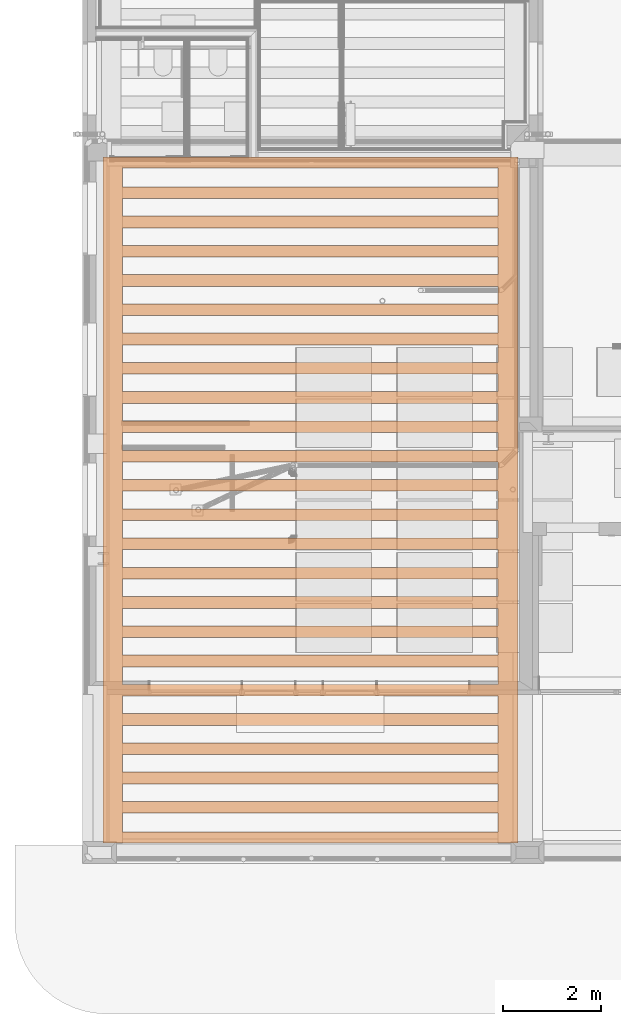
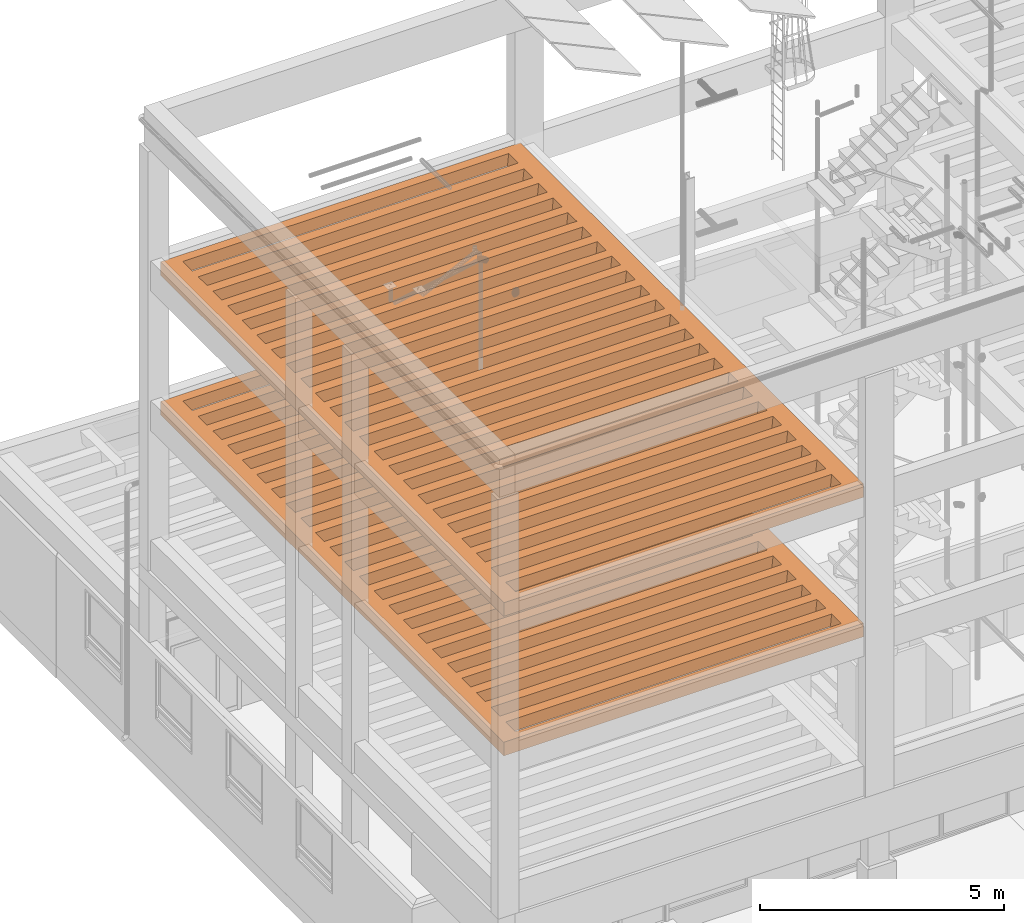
# One storey, part 105 of 108: 2 proxies.
"""IFC2X3 building model written with IfcOpenShell, lengths in metres."""

from ifc_helpers import new_model, entity, si_unit, converted_unit, derived_unit, money_unit, direction, frame, origin_with_axes, place, context, subcontext, project, spatial, faceted_brep, element, save


model = new_model("IFC2X3")

# Units and contexts
model_context = context("Model", 3, precision=1e-05, world=origin_with_axes(), true_north=direction((0.0, 1.0)))
body_context = subcontext(model_context, "Body", "Model", "MODEL_VIEW", scale=1.0)
ifc_project = project(units=[si_unit("LENGTHUNIT", "METRE"), si_unit("AREAUNIT", "SQUARE_METRE"), si_unit("VOLUMEUNIT", "CUBIC_METRE"), si_unit("ABSORBEDDOSEUNIT", "GRAY"), si_unit("AMOUNTOFSUBSTANCEUNIT", "MOLE"), si_unit("DOSEEQUIVALENTUNIT", "SIEVERT"), si_unit("ELECTRICCAPACITANCEUNIT", "FARAD"), si_unit("ELECTRICCHARGEUNIT", "COULOMB"), si_unit("ELECTRICCONDUCTANCEUNIT", "SIEMENS"), si_unit("ELECTRICCURRENTUNIT", "AMPERE"), si_unit("ELECTRICRESISTANCEUNIT", "OHM"), si_unit("ELECTRICVOLTAGEUNIT", "VOLT"), si_unit("ENERGYUNIT", "JOULE"), si_unit("FORCEUNIT", "NEWTON"), si_unit("FREQUENCYUNIT", "HERTZ"), si_unit("ILLUMINANCEUNIT", "LUX"), si_unit("INDUCTANCEUNIT", "HENRY"), si_unit("LUMINOUSFLUXUNIT", "LUMEN"), si_unit("LUMINOUSINTENSITYUNIT", "CANDELA"), si_unit("MAGNETICFLUXDENSITYUNIT", "TESLA"), si_unit("MAGNETICFLUXUNIT", "WEBER"), si_unit("MASSUNIT", "GRAM"), converted_unit("PLANEANGLEUNIT", "degree", entity("IfcReal", 0.0174532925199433), si_unit("PLANEANGLEUNIT", "RADIAN"), dimensions=[0, 0, 0, 0, 0, 0, 0]), si_unit("POWERUNIT", "WATT"), si_unit("PRESSUREUNIT", "PASCAL"), si_unit("RADIOACTIVITYUNIT", "BECQUEREL"), si_unit("SOLIDANGLEUNIT", "STERADIAN"), si_unit("THERMODYNAMICTEMPERATUREUNIT", "KELVIN"), si_unit("TIMEUNIT", "SECOND"), derived_unit("ACCELERATIONUNIT", [(si_unit("LENGTHUNIT", "METRE"), 1), (si_unit("TIMEUNIT", "SECOND"), -2)]), derived_unit("ANGULARVELOCITYUNIT", [(converted_unit("PLANEANGLEUNIT", "degree", entity("IfcReal", 0.0174532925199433), si_unit("PLANEANGLEUNIT", "RADIAN"), dimensions=[0, 0, 0, 0, 0, 0, 0]), 1), (si_unit("TIMEUNIT", "SECOND"), -1)]), derived_unit("CURVATUREUNIT", [(converted_unit("PLANEANGLEUNIT", "degree", entity("IfcReal", 0.0174532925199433), si_unit("PLANEANGLEUNIT", "RADIAN"), dimensions=[0, 0, 0, 0, 0, 0, 0]), 1), (si_unit("LENGTHUNIT", "METRE"), -1)]), derived_unit("DYNAMICVISCOSITYUNIT", [(si_unit("PRESSUREUNIT", "PASCAL"), 1), (si_unit("TIMEUNIT", "SECOND"), 1)]), derived_unit("HEATFLUXDENSITYUNIT", [(si_unit("POWERUNIT", "WATT"), 1), (si_unit("LENGTHUNIT", "METRE"), -2)]), derived_unit("HEATINGVALUEUNIT", [(si_unit("ENERGYUNIT", "JOULE"), 1), (si_unit("MASSUNIT", "GRAM"), -1)]), derived_unit("INTEGERCOUNTRATEUNIT", [(si_unit("TIMEUNIT", "SECOND"), -1)]), derived_unit("IONCONCENTRATIONUNIT", [(si_unit("MASSUNIT", "GRAM"), 1), (si_unit("VOLUMEUNIT", "CUBIC_METRE"), -1)]), derived_unit("ISOTHERMALMOISTURECAPACITYUNIT", [(si_unit("VOLUMEUNIT", "CUBIC_METRE"), 1), (si_unit("MASSUNIT", "GRAM"), -1)]), derived_unit("KINEMATICVISCOSITYUNIT", [(si_unit("AREAUNIT", "SQUARE_METRE"), 1), (si_unit("TIMEUNIT", "SECOND"), -1)]), derived_unit("LINEARFORCEUNIT", [(si_unit("FORCEUNIT", "NEWTON"), 1), (si_unit("LENGTHUNIT", "METRE"), -1)]), derived_unit("LINEARMOMENTUNIT", [(si_unit("FORCEUNIT", "NEWTON"), 1), (si_unit("LENGTHUNIT", "METRE"), -1)]), derived_unit("LINEARSTIFFNESSUNIT", [(si_unit("FORCEUNIT", "NEWTON"), 1), (si_unit("LENGTHUNIT", "METRE"), -1)]), derived_unit("LINEARVELOCITYUNIT", [(si_unit("LENGTHUNIT", "METRE"), 1), (si_unit("TIMEUNIT", "SECOND"), -1)]), derived_unit("LUMINOUSINTENSITYDISTRIBUTIONUNIT", [(si_unit("LUMINOUSINTENSITYUNIT", "CANDELA"), 1), (si_unit("LUMINOUSFLUXUNIT", "LUMEN"), -1)]), derived_unit("MASSDENSITYUNIT", [(si_unit("MASSUNIT", "GRAM"), 1), (si_unit("VOLUMEUNIT", "CUBIC_METRE"), -1)]), derived_unit("MASSFLOWRATEUNIT", [(si_unit("MASSUNIT", "GRAM"), 1), (si_unit("TIMEUNIT", "SECOND"), -1)]), derived_unit("MASSPERLENGTHUNIT", [(si_unit("MASSUNIT", "GRAM"), 1), (si_unit("LENGTHUNIT", "METRE"), -1)]), derived_unit("MODULUSOFELASTICITYUNIT", [(si_unit("FORCEUNIT", "NEWTON"), 1), (si_unit("AREAUNIT", "SQUARE_METRE"), -1)]), derived_unit("MODULUSOFLINEARSUBGRADEREACTIONUNIT", [(si_unit("FORCEUNIT", "NEWTON"), 1), (si_unit("LENGTHUNIT", "METRE"), -2)]), derived_unit("MODULUSOFROTATIONALSUBGRADEREACTIONUNIT", [(si_unit("FORCEUNIT", "NEWTON"), 1), (si_unit("LENGTHUNIT", "METRE"), 1)]), derived_unit("MODULUSOFSUBGRADEREACTIONUNIT", [(si_unit("FORCEUNIT", "NEWTON"), 1), (si_unit("VOLUMEUNIT", "CUBIC_METRE"), -1)]), derived_unit("MOISTUREDIFFUSIVITYUNIT", [(si_unit("VOLUMEUNIT", "CUBIC_METRE"), 1), (si_unit("TIMEUNIT", "SECOND"), -1)]), derived_unit("MOLECULARWEIGHTUNIT", [(si_unit("MASSUNIT", "GRAM"), 1), (si_unit("AMOUNTOFSUBSTANCEUNIT", "MOLE"), -1)]), derived_unit("PLANARFORCEUNIT", [(si_unit("FORCEUNIT", "NEWTON"), 1), (si_unit("LENGTHUNIT", "METRE"), -2)]), derived_unit("ROTATIONALFREQUENCYUNIT", [(si_unit("TIMEUNIT", "SECOND"), -1)]), derived_unit("ROTATIONALMASSUNIT", [(si_unit("MASSUNIT", "GRAM"), 1), (si_unit("LENGTHUNIT", "METRE"), 2)]), derived_unit("ROTATIONALSTIFFNESSUNIT", [(si_unit("FORCEUNIT", "NEWTON"), 1), (si_unit("LENGTHUNIT", "METRE"), 1), (converted_unit("PLANEANGLEUNIT", "degree", entity("IfcReal", 0.0174532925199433), si_unit("PLANEANGLEUNIT", "RADIAN"), dimensions=[0, 0, 0, 0, 0, 0, 0]), -1)]), derived_unit("SECTIONAREAINTEGRALUNIT", [(si_unit("LENGTHUNIT", "METRE"), 5)]), derived_unit("SECTIONMODULUSUNIT", [(si_unit("LENGTHUNIT", "METRE"), 3)]), derived_unit("SHEARMODULUSUNIT", [(si_unit("FORCEUNIT", "NEWTON"), 1), (si_unit("AREAUNIT", "SQUARE_METRE"), -1)]), derived_unit("SOUNDPOWERUNIT", [(si_unit("ENERGYUNIT", "JOULE"), 1), (si_unit("TIMEUNIT", "SECOND"), -1)]), derived_unit("SPECIFICHEATCAPACITYUNIT", [(si_unit("FORCEUNIT", "NEWTON"), 1), (si_unit("MASSUNIT", "GRAM"), -1), (si_unit("THERMODYNAMICTEMPERATUREUNIT", "KELVIN"), -1)]), derived_unit("TEMPERATUREGRADIENTUNIT", [(si_unit("THERMODYNAMICTEMPERATUREUNIT", "KELVIN"), 1), (si_unit("LENGTHUNIT", "METRE"), -1)]), derived_unit("THERMALADMITTANCEUNIT", [(si_unit("POWERUNIT", "WATT"), 1), (si_unit("AREAUNIT", "SQUARE_METRE"), -1), (si_unit("THERMODYNAMICTEMPERATUREUNIT", "KELVIN"), -1)]), derived_unit("THERMALCONDUCTANCEUNIT", [(si_unit("POWERUNIT", "WATT"), 1), (si_unit("LENGTHUNIT", "METRE"), -1), (si_unit("THERMODYNAMICTEMPERATUREUNIT", "KELVIN"), -1)]), derived_unit("THERMALEXPANSIONCOEFFICIENTUNIT", [(si_unit("THERMODYNAMICTEMPERATUREUNIT", "KELVIN"), -1)]), derived_unit("THERMALRESISTANCEUNIT", [(si_unit("AREAUNIT", "SQUARE_METRE"), 1), (si_unit("POWERUNIT", "WATT"), -1)]), derived_unit("THERMALTRANSMITTANCEUNIT", [(si_unit("POWERUNIT", "WATT"), 1), (si_unit("AREAUNIT", "SQUARE_METRE"), -1), (si_unit("THERMODYNAMICTEMPERATUREUNIT", "KELVIN"), -1)]), derived_unit("TORQUEUNIT", [(si_unit("FORCEUNIT", "NEWTON"), 1), (si_unit("LENGTHUNIT", "METRE"), 1)]), derived_unit("VAPORPERMEABILITYUNIT", [(si_unit("MASSUNIT", "GRAM"), 1), (si_unit("TIMEUNIT", "SECOND"), -1)]), derived_unit("VOLUMETRICFLOWRATEUNIT", [(si_unit("VOLUMEUNIT", "CUBIC_METRE"), 1), (si_unit("TIMEUNIT", "SECOND"), -1)]), derived_unit("WARPINGCONSTANTUNIT", [(si_unit("LENGTHUNIT", "METRE"), 6)]), derived_unit("WARPINGMOMENTUNIT", [(si_unit("FORCEUNIT", "NEWTON"), 1), (si_unit("LENGTHUNIT", "METRE"), 2)]), money_unit("GBP")], contexts=[model_context])

# Site, building, storey
site_placement = place(None, origin_with_axes())
site = spatial("IfcSite", under=ifc_project, at=site_placement, Name="Site", CompositionType="ELEMENT")
building_placement = place(site_placement, origin_with_axes())
building = spatial("IfcBuilding", under=site, at=building_placement, Name="Building01", CompositionType="ELEMENT")
storey_placement = place(building_placement, origin_with_axes())
storey = spatial("IfcBuildingStorey", under=building, at=storey_placement, Name="GF", CompositionType="ELEMENT", Elevation=0.0)

# Proxies
proxy_1_placement = place(storey_placement, frame((4.6725, 7.45, 8.3), z_axis=(0.0, 0.0, 1.0), x_axis=(1.0, 0.0, 0.0)))
element("IfcBuildingElementProxy", 1, at=proxy_1_placement, inside=storey, context=body_context, shape_type="Brep", body=[
    faceted_brep([(-3.8525, 7.03, -0.17), (-3.8525, -7.03, -0.17), (-4.2525, -7.03, -0.17), (-4.2525, 7.03, -0.17), (-3.8525, 7.03, 0.17), (-3.8525, -7.03, 0.17), (-4.2525, 7.03, 0.17), (-4.2525, -7.03, 0.17)], [[[0, 1, 2, 3]], [[4, 5, 1, 0]], [[6, 7, 5, 4]], [[3, 2, 7, 6]], [[1, 5, 7, 2]], [[3, 6, 4, 0]]]),
    faceted_brep([(-3.8525, -7.03, -0.17), (3.8525, -7.03, -0.17), (3.8525, -7.03, 0.17), (-3.8525, -7.03, 0.17), (-3.8525, -6.858571, -0.17), (3.8525, -6.858571, -0.17), (-3.8525, -6.81, 0.17), (3.8525, -6.81, 0.17)], [[[0, 1, 2, 3]], [[4, 5, 1, 0]], [[6, 7, 5, 4]], [[3, 2, 7, 6]], [[1, 5, 7, 2]], [[3, 6, 4, 0]]]),
    faceted_brep([(-3.8525, 7.03, 0.17), (3.8525, 7.03, 0.17), (3.8525, 7.03, -0.17), (-3.8525, 7.03, -0.17), (-3.8525, 6.81, 0.17), (3.8525, 6.81, 0.17), (-3.8525, 6.858572, -0.17), (3.8525, 6.858572, -0.17)], [[[0, 1, 2, 3]], [[4, 5, 1, 0]], [[6, 7, 5, 4]], [[3, 2, 7, 6]], [[1, 5, 7, 2]], [[3, 6, 4, 0]]]),
    faceted_brep([(-3.8525, 5.028572, -0.17), (3.8525, 5.028572, -0.17), (3.8525, 4.98, 0.17), (-3.8525, 4.98, 0.17), (-3.8525, 5.171429, -0.17), (3.8525, 5.171429, -0.17), (-3.8525, 5.22, 0.17), (3.8525, 5.22, 0.17)], [[[0, 1, 2, 3]], [[4, 5, 1, 0]], [[6, 7, 5, 4]], [[3, 2, 7, 6]], [[1, 5, 7, 2]], [[3, 6, 4, 0]]]),
    faceted_brep([(-3.8525, 4.428572, -0.17), (3.8525, 4.428572, -0.17), (3.8525, 4.38, 0.17), (-3.8525, 4.38, 0.17), (-3.8525, 4.571429, -0.17), (3.8525, 4.571429, -0.17), (-3.8525, 4.62, 0.17), (3.8525, 4.62, 0.17)], [[[0, 1, 2, 3]], [[4, 5, 1, 0]], [[6, 7, 5, 4]], [[3, 2, 7, 6]], [[1, 5, 7, 2]], [[3, 6, 4, 0]]]),
    faceted_brep([(-3.8525, 6.228572, -0.17), (3.8525, 6.228572, -0.17), (3.8525, 6.18, 0.17), (-3.8525, 6.18, 0.17), (-3.8525, 6.371429, -0.17), (3.8525, 6.371429, -0.17), (-3.8525, 6.42, 0.17), (3.8525, 6.42, 0.17)], [[[0, 1, 2, 3]], [[4, 5, 1, 0]], [[6, 7, 5, 4]], [[3, 2, 7, 6]], [[1, 5, 7, 2]], [[3, 6, 4, 0]]]),
    faceted_brep([(-3.8525, 5.628572, -0.17), (3.8525, 5.628572, -0.17), (3.8525, 5.58, 0.17), (-3.8525, 5.58, 0.17), (-3.8525, 5.771429, -0.17), (3.8525, 5.771429, -0.17), (-3.8525, 5.82, 0.17), (3.8525, 5.82, 0.17)], [[[0, 1, 2, 3]], [[4, 5, 1, 0]], [[6, 7, 5, 4]], [[3, 2, 7, 6]], [[1, 5, 7, 2]], [[3, 6, 4, 0]]]),
    faceted_brep([(-3.8525, 3.228572, -0.17), (3.8525, 3.228572, -0.17), (3.8525, 3.18, 0.17), (-3.8525, 3.18, 0.17), (-3.8525, 3.371429, -0.17), (3.8525, 3.371429, -0.17), (-3.8525, 3.42, 0.17), (3.8525, 3.42, 0.17)], [[[0, 1, 2, 3]], [[4, 5, 1, 0]], [[6, 7, 5, 4]], [[3, 2, 7, 6]], [[1, 5, 7, 2]], [[3, 6, 4, 0]]]),
    faceted_brep([(-3.8525, 2.628572, -0.17), (3.8525, 2.628572, -0.17), (3.8525, 2.58, 0.17), (-3.8525, 2.58, 0.17), (-3.8525, 2.771429, -0.17), (3.8525, 2.771429, -0.17), (-3.8525, 2.82, 0.17), (3.8525, 2.82, 0.17)], [[[0, 1, 2, 3]], [[4, 5, 1, 0]], [[6, 7, 5, 4]], [[3, 2, 7, 6]], [[1, 5, 7, 2]], [[3, 6, 4, 0]]]),
    faceted_brep([(-3.8525, 3.828572, -0.17), (3.8525, 3.828572, -0.17), (3.8525, 3.78, 0.17), (-3.8525, 3.78, 0.17), (-3.8525, 3.971429, -0.17), (3.8525, 3.971429, -0.17), (-3.8525, 4.02, 0.17), (3.8525, 4.02, 0.17)], [[[0, 1, 2, 3]], [[4, 5, 1, 0]], [[6, 7, 5, 4]], [[3, 2, 7, 6]], [[1, 5, 7, 2]], [[3, 6, 4, 0]]]),
    faceted_brep([(-3.8525, 1.428572, -0.17), (3.8525, 1.428572, -0.17), (3.8525, 1.38, 0.17), (-3.8525, 1.38, 0.17), (-3.8525, 1.571429, -0.17), (3.8525, 1.571429, -0.17), (-3.8525, 1.62, 0.17), (3.8525, 1.62, 0.17)], [[[0, 1, 2, 3]], [[4, 5, 1, 0]], [[6, 7, 5, 4]], [[3, 2, 7, 6]], [[1, 5, 7, 2]], [[3, 6, 4, 0]]]),
    faceted_brep([(-3.8525, 0.828572, -0.17), (3.8525, 0.828572, -0.17), (3.8525, 0.78, 0.17), (-3.8525, 0.78, 0.17), (-3.8525, 0.971429, -0.17), (3.8525, 0.971429, -0.17), (-3.8525, 1.02, 0.17), (3.8525, 1.02, 0.17)], [[[0, 1, 2, 3]], [[4, 5, 1, 0]], [[6, 7, 5, 4]], [[3, 2, 7, 6]], [[1, 5, 7, 2]], [[3, 6, 4, 0]]]),
    faceted_brep([(-3.8525, 2.028572, -0.17), (3.8525, 2.028572, -0.17), (3.8525, 1.98, 0.17), (-3.8525, 1.98, 0.17), (-3.8525, 2.171429, -0.17), (3.8525, 2.171429, -0.17), (-3.8525, 2.22, 0.17), (3.8525, 2.22, 0.17)], [[[0, 1, 2, 3]], [[4, 5, 1, 0]], [[6, 7, 5, 4]], [[3, 2, 7, 6]], [[1, 5, 7, 2]], [[3, 6, 4, 0]]]),
    faceted_brep([(-3.8525, -0.371428, -0.17), (3.8525, -0.371428, -0.17), (3.8525, -0.42, 0.17), (-3.8525, -0.42, 0.17), (-3.8525, -0.228571, -0.17), (3.8525, -0.228571, -0.17), (-3.8525, -0.18, 0.17), (3.8525, -0.18, 0.17)], [[[0, 1, 2, 3]], [[4, 5, 1, 0]], [[6, 7, 5, 4]], [[3, 2, 7, 6]], [[1, 5, 7, 2]], [[3, 6, 4, 0]]]),
    faceted_brep([(-3.8525, -0.971428, -0.17), (3.8525, -0.971428, -0.17), (3.8525, -1.02, 0.17), (-3.8525, -1.02, 0.17), (-3.8525, -0.828571, -0.17), (3.8525, -0.828571, -0.17), (-3.8525, -0.78, 0.17), (3.8525, -0.78, 0.17)], [[[0, 1, 2, 3]], [[4, 5, 1, 0]], [[6, 7, 5, 4]], [[3, 2, 7, 6]], [[1, 5, 7, 2]], [[3, 6, 4, 0]]]),
    faceted_brep([(-3.8525, 0.228572, -0.17), (3.8525, 0.228572, -0.17), (3.8525, 0.18, 0.17), (-3.8525, 0.18, 0.17), (-3.8525, 0.371429, -0.17), (3.8525, 0.371429, -0.17), (-3.8525, 0.42, 0.17), (3.8525, 0.42, 0.17)], [[[0, 1, 2, 3]], [[4, 5, 1, 0]], [[6, 7, 5, 4]], [[3, 2, 7, 6]], [[1, 5, 7, 2]], [[3, 6, 4, 0]]]),
    faceted_brep([(-3.8525, -2.171428, -0.17), (3.8525, -2.171428, -0.17), (3.8525, -2.22, 0.17), (-3.8525, -2.22, 0.17), (-3.8525, -2.028571, -0.17), (3.8525, -2.028571, -0.17), (-3.8525, -1.98, 0.17), (3.8525, -1.98, 0.17)], [[[0, 1, 2, 3]], [[4, 5, 1, 0]], [[6, 7, 5, 4]], [[3, 2, 7, 6]], [[1, 5, 7, 2]], [[3, 6, 4, 0]]]),
    faceted_brep([(-3.8525, -2.771428, -0.17), (3.8525, -2.771428, -0.17), (3.8525, -2.82, 0.17), (-3.8525, -2.82, 0.17), (-3.8525, -2.628571, -0.17), (3.8525, -2.628571, -0.17), (-3.8525, -2.58, 0.17), (3.8525, -2.58, 0.17)], [[[0, 1, 2, 3]], [[4, 5, 1, 0]], [[6, 7, 5, 4]], [[3, 2, 7, 6]], [[1, 5, 7, 2]], [[3, 6, 4, 0]]]),
    faceted_brep([(-3.8525, -1.571428, -0.17), (3.8525, -1.571428, -0.17), (3.8525, -1.62, 0.17), (-3.8525, -1.62, 0.17), (-3.8525, -1.428571, -0.17), (3.8525, -1.428571, -0.17), (-3.8525, -1.38, 0.17), (3.8525, -1.38, 0.17)], [[[0, 1, 2, 3]], [[4, 5, 1, 0]], [[6, 7, 5, 4]], [[3, 2, 7, 6]], [[1, 5, 7, 2]], [[3, 6, 4, 0]]]),
    faceted_brep([(-3.8525, -3.971428, -0.17), (3.8525, -3.971428, -0.17), (3.8525, -4.02, 0.17), (-3.8525, -4.02, 0.17), (-3.8525, -3.828571, -0.17), (3.8525, -3.828571, -0.17), (-3.8525, -3.78, 0.17), (3.8525, -3.78, 0.17)], [[[0, 1, 2, 3]], [[4, 5, 1, 0]], [[6, 7, 5, 4]], [[3, 2, 7, 6]], [[1, 5, 7, 2]], [[3, 6, 4, 0]]]),
    faceted_brep([(-3.8525, -4.571428, -0.17), (3.8525, -4.571428, -0.17), (3.8525, -4.62, 0.17), (-3.8525, -4.62, 0.17), (-3.8525, -4.428571, -0.17), (3.8525, -4.428571, -0.17), (-3.8525, -4.38, 0.17), (3.8525, -4.38, 0.17)], [[[0, 1, 2, 3]], [[4, 5, 1, 0]], [[6, 7, 5, 4]], [[3, 2, 7, 6]], [[1, 5, 7, 2]], [[3, 6, 4, 0]]]),
    faceted_brep([(-3.8525, -3.371428, -0.17), (3.8525, -3.371428, -0.17), (3.8525, -3.42, 0.17), (-3.8525, -3.42, 0.17), (-3.8525, -3.228571, -0.17), (3.8525, -3.228571, -0.17), (-3.8525, -3.18, 0.17), (3.8525, -3.18, 0.17)], [[[0, 1, 2, 3]], [[4, 5, 1, 0]], [[6, 7, 5, 4]], [[3, 2, 7, 6]], [[1, 5, 7, 2]], [[3, 6, 4, 0]]]),
    faceted_brep([(-3.8525, -5.771428, -0.17), (3.8525, -5.771428, -0.17), (3.8525, -5.82, 0.17), (-3.8525, -5.82, 0.17), (-3.8525, -5.628571, -0.17), (3.8525, -5.628571, -0.17), (-3.8525, -5.58, 0.17), (3.8525, -5.58, 0.17)], [[[0, 1, 2, 3]], [[4, 5, 1, 0]], [[6, 7, 5, 4]], [[3, 2, 7, 6]], [[1, 5, 7, 2]], [[3, 6, 4, 0]]]),
    faceted_brep([(-3.8525, -6.371428, -0.17), (3.8525, -6.371428, -0.17), (3.8525, -6.42, 0.17), (-3.8525, -6.42, 0.17), (-3.8525, -6.228571, -0.17), (3.8525, -6.228571, -0.17), (-3.8525, -6.18, 0.17), (3.8525, -6.18, 0.17)], [[[0, 1, 2, 3]], [[4, 5, 1, 0]], [[6, 7, 5, 4]], [[3, 2, 7, 6]], [[1, 5, 7, 2]], [[3, 6, 4, 0]]]),
    faceted_brep([(-3.8525, -5.171428, -0.17), (3.8525, -5.171428, -0.17), (3.8525, -5.22, 0.17), (-3.8525, -5.22, 0.17), (-3.8525, -5.028571, -0.17), (3.8525, -5.028571, -0.17), (-3.8525, -4.98, 0.17), (3.8525, -4.98, 0.17)], [[[0, 1, 2, 3]], [[4, 5, 1, 0]], [[6, 7, 5, 4]], [[3, 2, 7, 6]], [[1, 5, 7, 2]], [[3, 6, 4, 0]]]),
    faceted_brep([(4.2525, 7.03, -0.17), (4.2525, -7.03, -0.17), (3.8525, -7.03, -0.17), (3.8525, 7.03, -0.17), (4.2525, 7.03, 0.17), (4.2525, -7.03, 0.17), (3.8525, 7.03, 0.17), (3.8525, -7.03, 0.17)], [[[0, 1, 2, 3]], [[4, 5, 1, 0]], [[6, 7, 5, 4]], [[3, 2, 7, 6]], [[1, 5, 7, 2]], [[3, 6, 4, 0]]]),
])
proxy_2_placement = place(storey_placement, frame((4.6725, 7.45, 11.79), z_axis=(0.0, 0.0, 1.0), x_axis=(1.0, 0.0, 0.0)))
element("IfcBuildingElementProxy", 2, at=proxy_2_placement, inside=storey, context=body_context, shape_type="Brep", body=[
    faceted_brep([(-3.8525, 7.03, -0.17), (-3.8525, -7.03, -0.17), (-4.2525, -7.03, -0.17), (-4.2525, 7.03, -0.17), (-3.8525, 7.03, 0.17), (-3.8525, -7.03, 0.17), (-4.2525, 7.03, 0.17), (-4.2525, -7.03, 0.17)], [[[0, 1, 2, 3]], [[4, 5, 1, 0]], [[6, 7, 5, 4]], [[3, 2, 7, 6]], [[1, 5, 7, 2]], [[3, 6, 4, 0]]]),
    faceted_brep([(-3.8525, -7.03, -0.17), (3.8525, -7.03, -0.17), (3.8525, -7.03, 0.17), (-3.8525, -7.03, 0.17), (-3.8525, -6.858571, -0.17), (3.8525, -6.858571, -0.17), (-3.8525, -6.81, 0.17), (3.8525, -6.81, 0.17)], [[[0, 1, 2, 3]], [[4, 5, 1, 0]], [[6, 7, 5, 4]], [[3, 2, 7, 6]], [[1, 5, 7, 2]], [[3, 6, 4, 0]]]),
    faceted_brep([(-3.8525, 7.03, 0.17), (3.8525, 7.03, 0.17), (3.8525, 7.03, -0.17), (-3.8525, 7.03, -0.17), (-3.8525, 6.81, 0.17), (3.8525, 6.81, 0.17), (-3.8525, 6.858572, -0.17), (3.8525, 6.858572, -0.17)], [[[0, 1, 2, 3]], [[4, 5, 1, 0]], [[6, 7, 5, 4]], [[3, 2, 7, 6]], [[1, 5, 7, 2]], [[3, 6, 4, 0]]]),
    faceted_brep([(-3.8525, 5.028572, -0.17), (3.8525, 5.028572, -0.17), (3.8525, 4.98, 0.17), (-3.8525, 4.98, 0.17), (-3.8525, 5.171429, -0.17), (3.8525, 5.171429, -0.17), (-3.8525, 5.22, 0.17), (3.8525, 5.22, 0.17)], [[[0, 1, 2, 3]], [[4, 5, 1, 0]], [[6, 7, 5, 4]], [[3, 2, 7, 6]], [[1, 5, 7, 2]], [[3, 6, 4, 0]]]),
    faceted_brep([(-3.8525, 4.428572, -0.17), (3.8525, 4.428572, -0.17), (3.8525, 4.38, 0.17), (-3.8525, 4.38, 0.17), (-3.8525, 4.571429, -0.17), (3.8525, 4.571429, -0.17), (-3.8525, 4.62, 0.17), (3.8525, 4.62, 0.17)], [[[0, 1, 2, 3]], [[4, 5, 1, 0]], [[6, 7, 5, 4]], [[3, 2, 7, 6]], [[1, 5, 7, 2]], [[3, 6, 4, 0]]]),
    faceted_brep([(-3.8525, 6.228572, -0.17), (3.8525, 6.228572, -0.17), (3.8525, 6.18, 0.17), (-3.8525, 6.18, 0.17), (-3.8525, 6.371429, -0.17), (3.8525, 6.371429, -0.17), (-3.8525, 6.42, 0.17), (3.8525, 6.42, 0.17)], [[[0, 1, 2, 3]], [[4, 5, 1, 0]], [[6, 7, 5, 4]], [[3, 2, 7, 6]], [[1, 5, 7, 2]], [[3, 6, 4, 0]]]),
    faceted_brep([(-3.8525, 5.628572, -0.17), (3.8525, 5.628572, -0.17), (3.8525, 5.58, 0.17), (-3.8525, 5.58, 0.17), (-3.8525, 5.771429, -0.17), (3.8525, 5.771429, -0.17), (-3.8525, 5.82, 0.17), (3.8525, 5.82, 0.17)], [[[0, 1, 2, 3]], [[4, 5, 1, 0]], [[6, 7, 5, 4]], [[3, 2, 7, 6]], [[1, 5, 7, 2]], [[3, 6, 4, 0]]]),
    faceted_brep([(-3.8525, 3.228572, -0.17), (3.8525, 3.228572, -0.17), (3.8525, 3.18, 0.17), (-3.8525, 3.18, 0.17), (-3.8525, 3.371429, -0.17), (3.8525, 3.371429, -0.17), (-3.8525, 3.42, 0.17), (3.8525, 3.42, 0.17)], [[[0, 1, 2, 3]], [[4, 5, 1, 0]], [[6, 7, 5, 4]], [[3, 2, 7, 6]], [[1, 5, 7, 2]], [[3, 6, 4, 0]]]),
    faceted_brep([(-3.8525, 2.628572, -0.17), (3.8525, 2.628572, -0.17), (3.8525, 2.58, 0.17), (-3.8525, 2.58, 0.17), (-3.8525, 2.771429, -0.17), (3.8525, 2.771429, -0.17), (-3.8525, 2.82, 0.17), (3.8525, 2.82, 0.17)], [[[0, 1, 2, 3]], [[4, 5, 1, 0]], [[6, 7, 5, 4]], [[3, 2, 7, 6]], [[1, 5, 7, 2]], [[3, 6, 4, 0]]]),
    faceted_brep([(-3.8525, 3.828572, -0.17), (3.8525, 3.828572, -0.17), (3.8525, 3.78, 0.17), (-3.8525, 3.78, 0.17), (-3.8525, 3.971429, -0.17), (3.8525, 3.971429, -0.17), (-3.8525, 4.02, 0.17), (3.8525, 4.02, 0.17)], [[[0, 1, 2, 3]], [[4, 5, 1, 0]], [[6, 7, 5, 4]], [[3, 2, 7, 6]], [[1, 5, 7, 2]], [[3, 6, 4, 0]]]),
    faceted_brep([(-3.8525, 1.428572, -0.17), (3.8525, 1.428572, -0.17), (3.8525, 1.38, 0.17), (-3.8525, 1.38, 0.17), (-3.8525, 1.571429, -0.17), (3.8525, 1.571429, -0.17), (-3.8525, 1.62, 0.17), (3.8525, 1.62, 0.17)], [[[0, 1, 2, 3]], [[4, 5, 1, 0]], [[6, 7, 5, 4]], [[3, 2, 7, 6]], [[1, 5, 7, 2]], [[3, 6, 4, 0]]]),
    faceted_brep([(-3.8525, 0.828572, -0.17), (3.8525, 0.828572, -0.17), (3.8525, 0.78, 0.17), (-3.8525, 0.78, 0.17), (-3.8525, 0.971429, -0.17), (3.8525, 0.971429, -0.17), (-3.8525, 1.02, 0.17), (3.8525, 1.02, 0.17)], [[[0, 1, 2, 3]], [[4, 5, 1, 0]], [[6, 7, 5, 4]], [[3, 2, 7, 6]], [[1, 5, 7, 2]], [[3, 6, 4, 0]]]),
    faceted_brep([(-3.8525, 2.028572, -0.17), (3.8525, 2.028572, -0.17), (3.8525, 1.98, 0.17), (-3.8525, 1.98, 0.17), (-3.8525, 2.171429, -0.17), (3.8525, 2.171429, -0.17), (-3.8525, 2.22, 0.17), (3.8525, 2.22, 0.17)], [[[0, 1, 2, 3]], [[4, 5, 1, 0]], [[6, 7, 5, 4]], [[3, 2, 7, 6]], [[1, 5, 7, 2]], [[3, 6, 4, 0]]]),
    faceted_brep([(-3.8525, -0.371428, -0.17), (3.8525, -0.371428, -0.17), (3.8525, -0.42, 0.17), (-3.8525, -0.42, 0.17), (-3.8525, -0.228571, -0.17), (3.8525, -0.228571, -0.17), (-3.8525, -0.18, 0.17), (3.8525, -0.18, 0.17)], [[[0, 1, 2, 3]], [[4, 5, 1, 0]], [[6, 7, 5, 4]], [[3, 2, 7, 6]], [[1, 5, 7, 2]], [[3, 6, 4, 0]]]),
    faceted_brep([(-3.8525, -0.971428, -0.17), (3.8525, -0.971428, -0.17), (3.8525, -1.02, 0.17), (-3.8525, -1.02, 0.17), (-3.8525, -0.828571, -0.17), (3.8525, -0.828571, -0.17), (-3.8525, -0.78, 0.17), (3.8525, -0.78, 0.17)], [[[0, 1, 2, 3]], [[4, 5, 1, 0]], [[6, 7, 5, 4]], [[3, 2, 7, 6]], [[1, 5, 7, 2]], [[3, 6, 4, 0]]]),
    faceted_brep([(-3.8525, 0.228572, -0.17), (3.8525, 0.228572, -0.17), (3.8525, 0.18, 0.17), (-3.8525, 0.18, 0.17), (-3.8525, 0.371429, -0.17), (3.8525, 0.371429, -0.17), (-3.8525, 0.42, 0.17), (3.8525, 0.42, 0.17)], [[[0, 1, 2, 3]], [[4, 5, 1, 0]], [[6, 7, 5, 4]], [[3, 2, 7, 6]], [[1, 5, 7, 2]], [[3, 6, 4, 0]]]),
    faceted_brep([(-3.8525, -2.171428, -0.17), (3.8525, -2.171428, -0.17), (3.8525, -2.22, 0.17), (-3.8525, -2.22, 0.17), (-3.8525, -2.028571, -0.17), (3.8525, -2.028571, -0.17), (-3.8525, -1.98, 0.17), (3.8525, -1.98, 0.17)], [[[0, 1, 2, 3]], [[4, 5, 1, 0]], [[6, 7, 5, 4]], [[3, 2, 7, 6]], [[1, 5, 7, 2]], [[3, 6, 4, 0]]]),
    faceted_brep([(-3.8525, -2.771428, -0.17), (3.8525, -2.771428, -0.17), (3.8525, -2.82, 0.17), (-3.8525, -2.82, 0.17), (-3.8525, -2.628571, -0.17), (3.8525, -2.628571, -0.17), (-3.8525, -2.58, 0.17), (3.8525, -2.58, 0.17)], [[[0, 1, 2, 3]], [[4, 5, 1, 0]], [[6, 7, 5, 4]], [[3, 2, 7, 6]], [[1, 5, 7, 2]], [[3, 6, 4, 0]]]),
    faceted_brep([(-3.8525, -1.571428, -0.17), (3.8525, -1.571428, -0.17), (3.8525, -1.62, 0.17), (-3.8525, -1.62, 0.17), (-3.8525, -1.428571, -0.17), (3.8525, -1.428571, -0.17), (-3.8525, -1.38, 0.17), (3.8525, -1.38, 0.17)], [[[0, 1, 2, 3]], [[4, 5, 1, 0]], [[6, 7, 5, 4]], [[3, 2, 7, 6]], [[1, 5, 7, 2]], [[3, 6, 4, 0]]]),
    faceted_brep([(-3.8525, -3.971428, -0.17), (3.8525, -3.971428, -0.17), (3.8525, -4.02, 0.17), (-3.8525, -4.02, 0.17), (-3.8525, -3.828571, -0.17), (3.8525, -3.828571, -0.17), (-3.8525, -3.78, 0.17), (3.8525, -3.78, 0.17)], [[[0, 1, 2, 3]], [[4, 5, 1, 0]], [[6, 7, 5, 4]], [[3, 2, 7, 6]], [[1, 5, 7, 2]], [[3, 6, 4, 0]]]),
    faceted_brep([(-3.8525, -4.571428, -0.17), (3.8525, -4.571428, -0.17), (3.8525, -4.62, 0.17), (-3.8525, -4.62, 0.17), (-3.8525, -4.428571, -0.17), (3.8525, -4.428571, -0.17), (-3.8525, -4.38, 0.17), (3.8525, -4.38, 0.17)], [[[0, 1, 2, 3]], [[4, 5, 1, 0]], [[6, 7, 5, 4]], [[3, 2, 7, 6]], [[1, 5, 7, 2]], [[3, 6, 4, 0]]]),
    faceted_brep([(-3.8525, -3.371428, -0.17), (3.8525, -3.371428, -0.17), (3.8525, -3.42, 0.17), (-3.8525, -3.42, 0.17), (-3.8525, -3.228571, -0.17), (3.8525, -3.228571, -0.17), (-3.8525, -3.18, 0.17), (3.8525, -3.18, 0.17)], [[[0, 1, 2, 3]], [[4, 5, 1, 0]], [[6, 7, 5, 4]], [[3, 2, 7, 6]], [[1, 5, 7, 2]], [[3, 6, 4, 0]]]),
    faceted_brep([(-3.8525, -5.771428, -0.17), (3.8525, -5.771428, -0.17), (3.8525, -5.82, 0.17), (-3.8525, -5.82, 0.17), (-3.8525, -5.628571, -0.17), (3.8525, -5.628571, -0.17), (-3.8525, -5.58, 0.17), (3.8525, -5.58, 0.17)], [[[0, 1, 2, 3]], [[4, 5, 1, 0]], [[6, 7, 5, 4]], [[3, 2, 7, 6]], [[1, 5, 7, 2]], [[3, 6, 4, 0]]]),
    faceted_brep([(-3.8525, -6.371428, -0.17), (3.8525, -6.371428, -0.17), (3.8525, -6.42, 0.17), (-3.8525, -6.42, 0.17), (-3.8525, -6.228571, -0.17), (3.8525, -6.228571, -0.17), (-3.8525, -6.18, 0.17), (3.8525, -6.18, 0.17)], [[[0, 1, 2, 3]], [[4, 5, 1, 0]], [[6, 7, 5, 4]], [[3, 2, 7, 6]], [[1, 5, 7, 2]], [[3, 6, 4, 0]]]),
    faceted_brep([(-3.8525, -5.171428, -0.17), (3.8525, -5.171428, -0.17), (3.8525, -5.22, 0.17), (-3.8525, -5.22, 0.17), (-3.8525, -5.028571, -0.17), (3.8525, -5.028571, -0.17), (-3.8525, -4.98, 0.17), (3.8525, -4.98, 0.17)], [[[0, 1, 2, 3]], [[4, 5, 1, 0]], [[6, 7, 5, 4]], [[3, 2, 7, 6]], [[1, 5, 7, 2]], [[3, 6, 4, 0]]]),
    faceted_brep([(4.2525, 7.03, -0.17), (4.2525, -7.03, -0.17), (3.8525, -7.03, -0.17), (3.8525, 7.03, -0.17), (4.2525, 7.03, 0.17), (4.2525, -7.03, 0.17), (3.8525, 7.03, 0.17), (3.8525, -7.03, 0.17)], [[[0, 1, 2, 3]], [[4, 5, 1, 0]], [[6, 7, 5, 4]], [[3, 2, 7, 6]], [[1, 5, 7, 2]], [[3, 6, 4, 0]]]),
])

save(model, "model.ifc")
